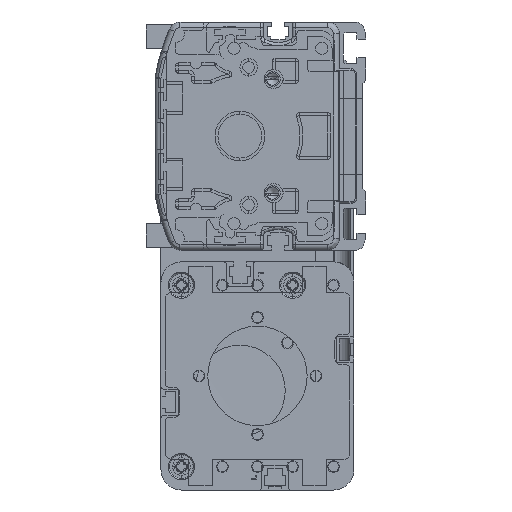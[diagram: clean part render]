
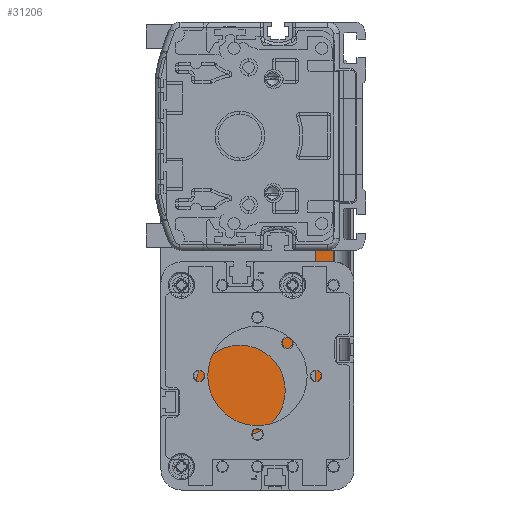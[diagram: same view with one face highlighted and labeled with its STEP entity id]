
A CAD part, left-side view. The second image highlights one B-rep face of the part: STEP entity #31206.
In plain terms, the highlighted spherical face has radius 998.8 mm.
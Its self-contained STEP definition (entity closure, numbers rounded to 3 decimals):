
#11345=CARTESIAN_POINT('',(129.,38.,-111.569));
#11346=DIRECTION('',(0.,0.,1.));
#11347=DIRECTION('',(1.,-0.026,0.));
#11348=AXIS2_PLACEMENT_3D('',#11345,#11346,#11347);
#11368=CARTESIAN_POINT('',(129.,38.,-111.569));
#11369=DIRECTION('',(0.,0.,1.));
#11370=DIRECTION('',(1.,0.007,0.));
#11371=AXIS2_PLACEMENT_3D('',#11368,#11369,#11370);
#11380=CARTESIAN_POINT('',(1125.688,44.777,
-111.569));
#11381=CARTESIAN_POINT('',(1125.741,44.493,
-110.776));
#11382=CARTESIAN_POINT('',(1125.841,43.643,
-109.292));
#11383=CARTESIAN_POINT('',(1125.952,41.684,
-107.641));
#11384=CARTESIAN_POINT('',(1126.011,39.279,
-106.764));
#11385=CARTESIAN_POINT('',(1126.011,36.72,
-106.764));
#11386=CARTESIAN_POINT('',(1125.952,34.316,
-107.642));
#11387=CARTESIAN_POINT('',(1125.841,32.356,
-109.293));
#11388=CARTESIAN_POINT('',(1125.741,31.507,
-110.776));
#11389=CARTESIAN_POINT('',(1125.688,31.223,
-111.569));
#11411=CARTESIAN_POINT('',(1125.688,31.223,17.569));
#11412=CARTESIAN_POINT('',(1125.741,31.506,16.779));
#11413=CARTESIAN_POINT('',(1125.84,32.352,15.299));
#11414=CARTESIAN_POINT('',(1125.952,34.313,13.642));
#11415=CARTESIAN_POINT('',(1126.011,36.72,12.764));
#11416=CARTESIAN_POINT('',(1126.011,39.281,12.764));
#11417=CARTESIAN_POINT('',(1125.952,41.688,13.643));
#11418=CARTESIAN_POINT('',(1125.84,43.649,15.3));
#11419=CARTESIAN_POINT('',(1125.741,44.494,16.78));
#11420=CARTESIAN_POINT('',(1125.688,44.777,17.569));
#11422=CARTESIAN_POINT('',(129.,64.152,-47.));
#11423=DIRECTION('',(0.,-1.,0.));
#11424=DIRECTION('',(0.998,0.,-0.065));
#11425=AXIS2_PLACEMENT_3D('',#11422,#11423,#11424);
#11464=CARTESIAN_POINT('',(129.,38.,17.569));
#11465=DIRECTION('',(0.,0.,-1.));
#11466=DIRECTION('',(1.,0.026,0.));
#11467=AXIS2_PLACEMENT_3D('',#11464,#11465,#11466);
#11478=CARTESIAN_POINT('',(129.,38.,17.569));
#11479=DIRECTION('',(0.,0.,-1.));
#11480=DIRECTION('',(1.,-0.007,0.));
#11481=AXIS2_PLACEMENT_3D('',#11478,#11479,#11480);
#11558=CARTESIAN_POINT('',(129.,11.848,-47.));
#11559=DIRECTION('',(0.,1.,0.));
#11560=DIRECTION('',(0.998,0.,0.065));
#11561=AXIS2_PLACEMENT_3D('',#11558,#11559,#11560);
#13044=VERTEX_POINT('',#11380);
#13045=VERTEX_POINT('',#11389);
#13046=CARTESIAN_POINT('',(1125.368,11.848,
-111.569));
#13047=VERTEX_POINT('',#13046);
#13048=CARTESIAN_POINT('',(1125.368,11.848,17.569));
#13049=VERTEX_POINT('',#13048);
#13050=CARTESIAN_POINT('',(1125.688,31.223,17.569));
#13051=VERTEX_POINT('',#13050);
#13052=VERTEX_POINT('',#11420);
#13053=CARTESIAN_POINT('',(1125.368,64.152,17.569));
#13054=VERTEX_POINT('',#13053);
#13055=CARTESIAN_POINT('',(1125.368,64.152,
-111.569));
#13056=VERTEX_POINT('',#13055);
#31186=CARTESIAN_POINT('',(129.,38.,-47.));
#31187=DIRECTION('',(0.,0.,-1.));
#31188=DIRECTION('',(1.,0.,0.));
#31189=AXIS2_PLACEMENT_3D('',#31186,#31187,#31188);
#31190=SPHERICAL_SURFACE('',#31189,998.8);
#31191=ORIENTED_EDGE('',*,*,#31177,.F.);
#31192=ORIENTED_EDGE('',*,*,#31163,.T.);
#31194=ORIENTED_EDGE('',*,*,#31193,.T.);
#31196=ORIENTED_EDGE('',*,*,#31195,.T.);
#31198=ORIENTED_EDGE('',*,*,#31197,.F.);
#31200=ORIENTED_EDGE('',*,*,#31199,.T.);
#31202=ORIENTED_EDGE('',*,*,#31201,.T.);
#31203=ORIENTED_EDGE('',*,*,#31156,.T.);
#31204=EDGE_LOOP('',(#31191,#31192,#31194,#31196,#31198,#31200,#31202,#31203));
#31205=FACE_OUTER_BOUND('',#31204,.F.);
#31206=ADVANCED_FACE('',(#31205),#31190,.F.);
#11349=CIRCLE('',#11348,996.711);
#11372=CIRCLE('',#11371,996.711);
#11390=B_SPLINE_CURVE_WITH_KNOTS('',3,(#11380,#11381,#11382,#11383,#11384,
#11385,#11386,#11387,#11388,#11389),.UNSPECIFIED.,.F.,.F.,(4,1,1,1,1,1,1,4),(
0.,0.143,0.286,0.429,0.571,
0.714,0.857,1.),.UNSPECIFIED.);
#11421=B_SPLINE_CURVE_WITH_KNOTS('',3,(#11411,#11412,#11413,#11414,#11415,
#11416,#11417,#11418,#11419,#11420),.UNSPECIFIED.,.F.,.F.,(4,1,1,1,1,1,1,4),(
0.,0.143,0.286,0.429,0.571,
0.714,0.857,1.),.UNSPECIFIED.);
#11426=CIRCLE('',#11425,998.458);
#11468=CIRCLE('',#11467,996.711);
#11482=CIRCLE('',#11481,996.711);
#11562=CIRCLE('',#11561,998.458);
#31156=EDGE_CURVE('',#13047,#13045,#11349,.T.);
#31163=EDGE_CURVE('',#13044,#13056,#11372,.T.);
#31177=EDGE_CURVE('',#13044,#13045,#11390,.T.);
#31193=EDGE_CURVE('',#13056,#13054,#11426,.T.);
#31195=EDGE_CURVE('',#13054,#13052,#11468,.T.);
#31197=EDGE_CURVE('',#13051,#13052,#11421,.T.);
#31199=EDGE_CURVE('',#13051,#13049,#11482,.T.);
#31201=EDGE_CURVE('',#13049,#13047,#11562,.T.);
